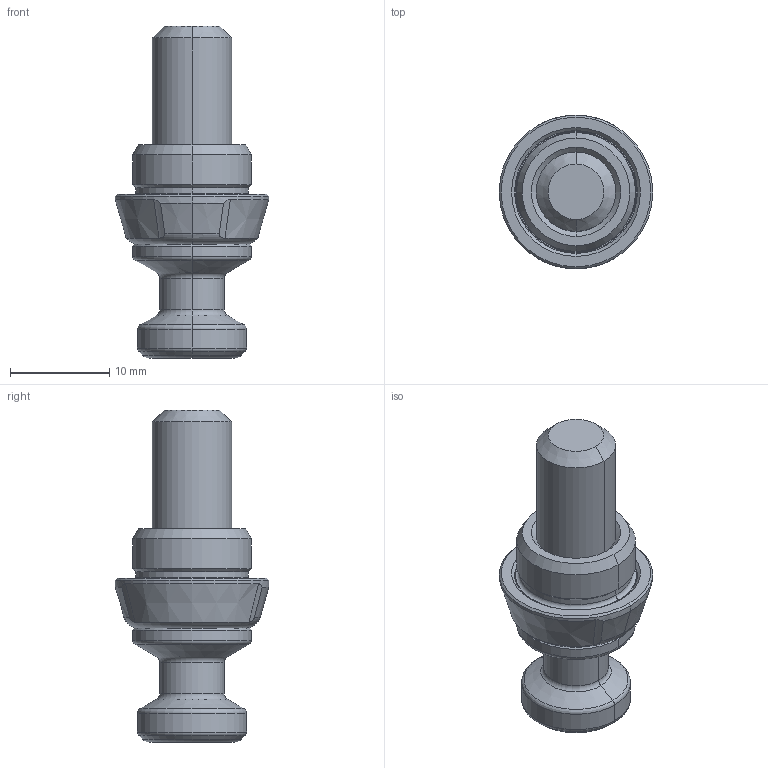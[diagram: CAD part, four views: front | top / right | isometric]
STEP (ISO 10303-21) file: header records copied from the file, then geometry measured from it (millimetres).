
FILE_DESCRIPTION (( 'STEP AP203' ), '1' );
FILE_NAME ('cp155-08001d.STEP', '2021-10-25T23:35:46', ( '' ), ( '' ), 'SwSTEP 2.0', 'SolidWorks 2020', '' );
FILE_SCHEMA (( 'CONFIG_CONTROL_DESIGN' ));
Length unit declared in the file: millimetre
Products named in the file (1): cp155-08001d
Bounding box: 15.5 x 15.5 x 33.5 mm (x, y, z)
Volume: 2692 mm3; surface area: 1460.4 mm2
Topology: 1 solids, 1 shells, 74 faces, 161 edges, 94 vertices
Faces by surface type: cone 27, cylinder 18, torus 16, plane 13
Entity records: 2154 total; most frequent: CARTESIAN_POINT 434, DIRECTION 379, ORIENTED_EDGE 322, AXIS2_PLACEMENT_3D 163, EDGE_CURVE 161, VERTEX_POINT 94, CIRCLE 88, EDGE_LOOP 79
